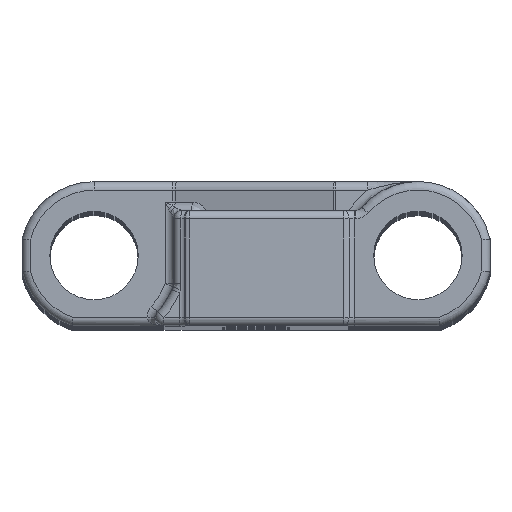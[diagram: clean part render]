
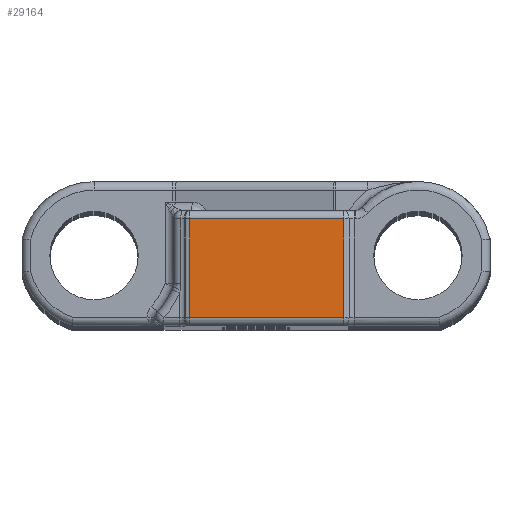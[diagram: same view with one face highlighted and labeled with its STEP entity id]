
A CAD part, top view. The second image highlights one B-rep face of the part: STEP entity #29164.
In plain terms, the highlighted planar face has unit normal (0, 0, 1).
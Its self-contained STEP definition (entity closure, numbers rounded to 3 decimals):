
#4929=DIRECTION('',(1.,0.,0.));
#4930=VECTOR('',#4929,9.067);
#4931=CARTESIAN_POINT('',(-3.892,-3.65,76.2));
#4932=LINE('',#4931,#4930);
#4933=DIRECTION('',(0.,-1.,0.));
#4934=VECTOR('',#4933,5.8);
#4935=CARTESIAN_POINT('',(-3.892,2.15,76.2));
#4936=LINE('',#4935,#4934);
#4937=DIRECTION('',(-1.,0.,0.));
#4938=VECTOR('',#4937,9.067);
#4939=CARTESIAN_POINT('',(5.175,2.15,76.2));
#4940=LINE('',#4939,#4938);
#4941=DIRECTION('',(0.,-1.,0.));
#4942=VECTOR('',#4941,5.8);
#4943=CARTESIAN_POINT('',(5.175,2.15,76.2));
#4944=LINE('',#4943,#4942);
#22110=CARTESIAN_POINT('',(5.175,-3.65,76.2));
#22111=VERTEX_POINT('',#22110);
#22112=CARTESIAN_POINT('',(-3.892,-3.65,76.2));
#22113=VERTEX_POINT('',#22112);
#22142=CARTESIAN_POINT('',(5.175,2.15,76.2));
#22143=VERTEX_POINT('',#22142);
#22148=CARTESIAN_POINT('',(-3.892,2.15,76.2));
#22149=VERTEX_POINT('',#22148);
#29151=CARTESIAN_POINT('',(-4.043,-4.15,76.2));
#29152=DIRECTION('',(0.,0.,1.));
#29153=DIRECTION('',(1.,0.,0.));
#29154=AXIS2_PLACEMENT_3D('',#29151,#29152,#29153);
#29155=PLANE('',#29154);
#29157=ORIENTED_EDGE('',*,*,#29156,.F.);
#29158=ORIENTED_EDGE('',*,*,#29120,.F.);
#29159=ORIENTED_EDGE('',*,*,#29142,.F.);
#29161=ORIENTED_EDGE('',*,*,#29160,.T.);
#29162=EDGE_LOOP('',(#29157,#29158,#29159,#29161));
#29163=FACE_OUTER_BOUND('',#29162,.F.);
#29164=ADVANCED_FACE('',(#29163),#29155,.T.);
#29120=EDGE_CURVE('',#22149,#22113,#4936,.T.);
#29142=EDGE_CURVE('',#22143,#22149,#4940,.T.);
#29156=EDGE_CURVE('',#22113,#22111,#4932,.T.);
#29160=EDGE_CURVE('',#22143,#22111,#4944,.T.);
